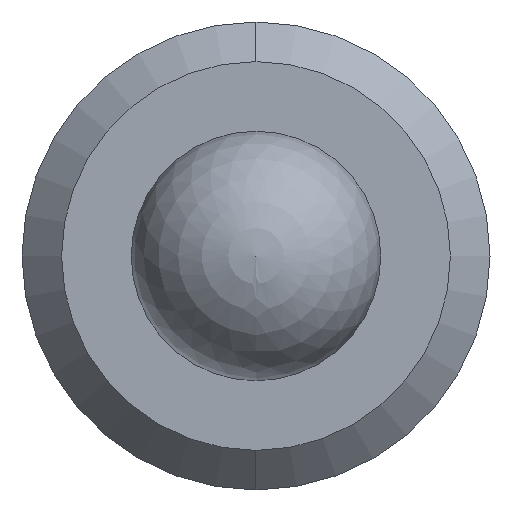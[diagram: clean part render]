
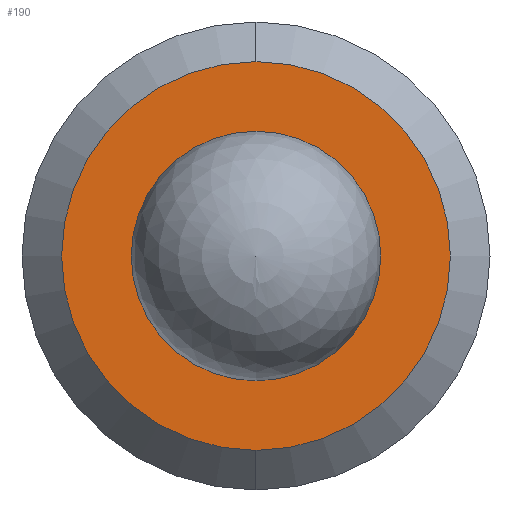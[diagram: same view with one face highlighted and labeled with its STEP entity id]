
A CAD part, left-side view. The second image highlights one B-rep face of the part: STEP entity #190.
In plain terms, the highlighted planar face has unit normal (-1, 0, 0).
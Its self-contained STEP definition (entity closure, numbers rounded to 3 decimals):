
#40 = DIRECTION ( 'NONE',  ( 0., 0., -1. ) ) ;
#45 = AXIS2_PLACEMENT_3D ( 'NONE', #426, #335, #331 ) ;
#56 = AXIS2_PLACEMENT_3D ( 'NONE', #346, #297, #569 ) ;
#62 = CARTESIAN_POINT ( 'NONE',  ( 0., 0., 0. ) ) ;
#93 = CARTESIAN_POINT ( 'NONE',  ( 0., 0., 0.8 ) ) ;
#101 = VERTEX_POINT ( 'NONE', #390 ) ;
#106 = DIRECTION ( 'NONE',  ( 0., 0., 1. ) ) ;
#108 = VERTEX_POINT ( 'NONE', #93 ) ;
#178 = CARTESIAN_POINT ( 'NONE',  ( 0., 0., 0. ) ) ;
#190 = ADVANCED_FACE ( 'NONE', ( #424, #563 ), #220, .F. ) ;
#220 = PLANE ( 'NONE',  #56 ) ;
#228 = DIRECTION ( 'NONE',  ( 0., 0., 1. ) ) ;
#240 = VERTEX_POINT ( 'NONE', #366 ) ;
#241 = ORIENTED_EDGE ( 'NONE', *, *, #492, .F. ) ;
#286 = EDGE_LOOP ( 'NONE', ( #574, #241 ) ) ;
#297 = DIRECTION ( 'NONE',  ( 1., 0., 0. ) ) ;
#298 = EDGE_CURVE ( 'NONE', #594, #101, #465, .T. ) ;
#307 = AXIS2_PLACEMENT_3D ( 'NONE', #62, #515, #106 ) ;
#328 = CARTESIAN_POINT ( 'NONE',  ( 0., 0., 1.246 ) ) ;
#331 = DIRECTION ( 'NONE',  ( 0., 0., -1. ) ) ;
#335 = DIRECTION ( 'NONE',  ( -1., 0., 0. ) ) ;
#338 = CIRCLE ( 'NONE', #307, 0.8 ) ;
#346 = CARTESIAN_POINT ( 'NONE',  ( 0., 0., 0. ) ) ;
#366 = CARTESIAN_POINT ( 'NONE',  ( 0., 0., -0.8 ) ) ;
#370 = DIRECTION ( 'NONE',  ( -1., 0., 0. ) ) ;
#381 = ORIENTED_EDGE ( 'NONE', *, *, #298, .T. ) ;
#390 = CARTESIAN_POINT ( 'NONE',  ( 0., 0., -1.246 ) ) ;
#418 = CARTESIAN_POINT ( 'NONE',  ( 0., 0., 0. ) ) ;
#424 = FACE_BOUND ( 'NONE', #286, .T. ) ;
#426 = CARTESIAN_POINT ( 'NONE',  ( 0., 0., 0. ) ) ;
#430 = DIRECTION ( 'NONE',  ( -1., 0., 0. ) ) ;
#447 = EDGE_CURVE ( 'NONE', #108, #240, #338, .T. ) ;
#465 = CIRCLE ( 'NONE', #45, 1.246 ) ;
#490 = AXIS2_PLACEMENT_3D ( 'NONE', #418, #370, #228 ) ;
#492 = EDGE_CURVE ( 'NONE', #240, #108, #573, .T. ) ;
#493 = AXIS2_PLACEMENT_3D ( 'NONE', #178, #430, #40 ) ;
#494 = EDGE_CURVE ( 'NONE', #101, #594, #600, .T. ) ;
#502 = ORIENTED_EDGE ( 'NONE', *, *, #494, .T. ) ;
#515 = DIRECTION ( 'NONE',  ( -1., 0., 0. ) ) ;
#538 = EDGE_LOOP ( 'NONE', ( #502, #381 ) ) ;
#563 = FACE_OUTER_BOUND ( 'NONE', #538, .T. ) ;
#569 = DIRECTION ( 'NONE',  ( 0., 0., -1. ) ) ;
#573 = CIRCLE ( 'NONE', #490, 0.8 ) ;
#574 = ORIENTED_EDGE ( 'NONE', *, *, #447, .F. ) ;
#594 = VERTEX_POINT ( 'NONE', #328 ) ;
#600 = CIRCLE ( 'NONE', #493, 1.246 ) ;
